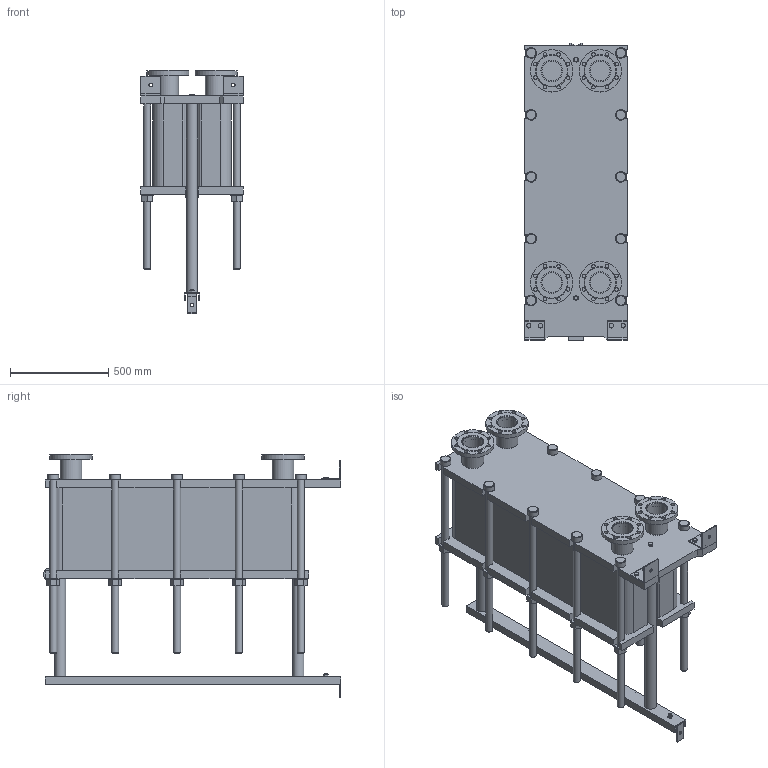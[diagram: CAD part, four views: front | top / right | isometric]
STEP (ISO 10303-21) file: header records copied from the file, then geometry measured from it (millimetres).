
FILE_DESCRIPTION(/* description */ (''),/* implementation_level */ '2;1');
FILE_NAME(/* name */ 'C:\Users\zhuro\Desktop\ENCO\TO\ЭН-04\ЭН-0,5-04-122-1.stp',/* time_stamp */ '2022-06-06T10:56:17+03:00',/* author */ ('zhuro'),/* organization */ (''),/* preprocessor_version */ 'ST-DEVELOPER v18.1',/* originating_system */ 'Autodesk Inventor 2022',/* authorisation */ '');
FILE_SCHEMA (('AUTOMOTIVE_DESIGN { 1 0 10303 214 3 1 1 }'));
Length unit declared in the file: millimetre
Products named in the file (1): ЭН-0,5-04-122-1
Bounding box: 520 x 1510 x 1236 mm (x, y, z)
Volume: 282737472.9 mm3; surface area: 8839044 mm2
Topology: 45 solids, 45 shells, 668 faces, 1611 edges, 1048 vertices
Faces by surface type: plane 457, cylinder 166, cone 39, torus 6
Full cylindrical faces by diameter (mm): 8 x4, 10 x2, 16 x8, 18 x35, 36 x25, 40 x2, 42 x1, 45 x4, 54 x10, 57 x2, 60 x10, 68 x2, 100 x4, 110 x8, 215 x4
Entity records: 23607 total; most frequent: CARTESIAN_POINT 7348, DIRECTION 3371, ORIENTED_EDGE 3142, EDGE_CURVE 1571, AXIS2_PLACEMENT_3D 1199, VERTEX_POINT 1044, LINE 973, VECTOR 973
